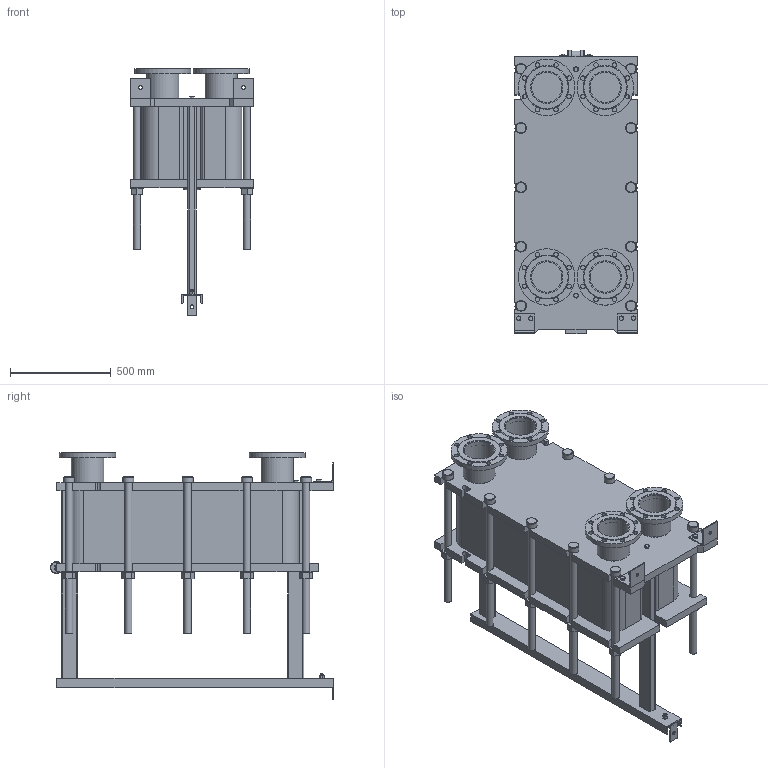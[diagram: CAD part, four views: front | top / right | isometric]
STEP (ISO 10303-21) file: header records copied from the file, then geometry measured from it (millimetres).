
FILE_DESCRIPTION(/* description */ (''),/* implementation_level */ '2;1');
FILE_NAME(/* name */ 'C:\Users\zhuro\Desktop\ENCO\TO\ЭН-041\ЭН-0,5-041-105-1.stp',/* time_stamp */ '2022-06-06T10:58:29+03:00',/* author */ ('zhuro'),/* organization */ (''),/* preprocessor_version */ 'ST-DEVELOPER v18.1',/* originating_system */ 'Autodesk Inventor 2022',/* authorisation */ '');
FILE_SCHEMA (('AUTOMOTIVE_DESIGN { 1 0 10303 214 3 1 1 }'));
Length unit declared in the file: millimetre
Products named in the file (1): ЭН-0,5-041-105-1
Bounding box: 610 x 1406.5 x 1227.5 mm (x, y, z)
Volume: 284567418.9 mm3; surface area: 9134757 mm2
Topology: 52 solids, 52 shells, 711 faces, 1696 edges, 1094 vertices
Faces by surface type: plane 487, cylinder 177, cone 41, torus 6
Full cylindrical faces by diameter (mm): 8 x4, 10 x2, 16 x8, 18 x3, 22 x32, 36 x24, 50 x1, 54 x10, 60 x12, 151 x4, 161 x8, 280 x4
Entity records: 22667 total; most frequent: CARTESIAN_POINT 5230, DIRECTION 3644, ORIENTED_EDGE 3392, EDGE_CURVE 1696, AXIS2_PLACEMENT_3D 1272, LINE 1100, VECTOR 1100, VERTEX_POINT 1094
